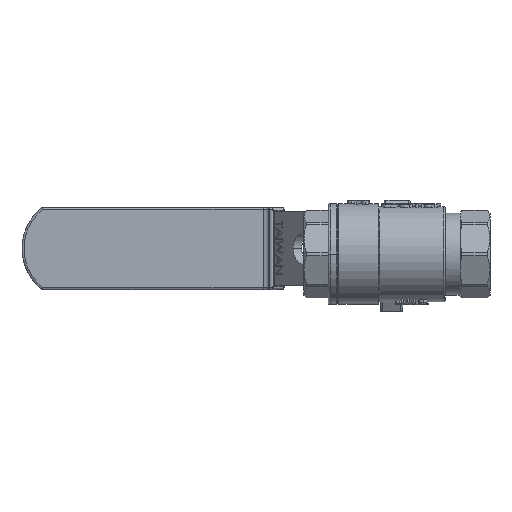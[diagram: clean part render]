
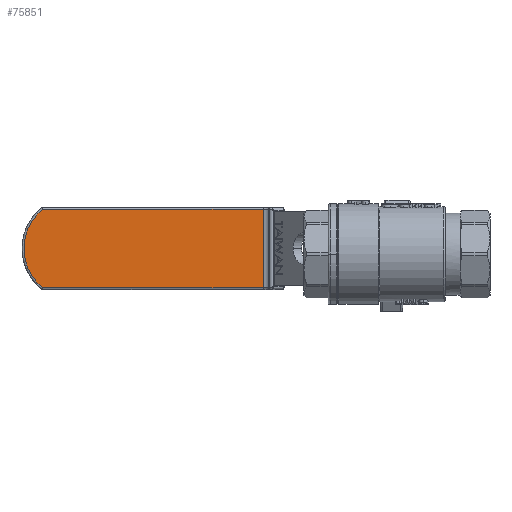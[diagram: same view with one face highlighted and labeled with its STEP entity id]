
A CAD part, front view. The second image highlights one B-rep face of the part: STEP entity #75851.
In plain terms, the highlighted planar face has unit normal (0, -1, 0).
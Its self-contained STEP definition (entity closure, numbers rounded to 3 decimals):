
#4627 = VERTEX_POINT ( 'NONE', #117101 ) ;
#5221 = AXIS2_PLACEMENT_3D ( 'NONE', #112154, #52842, #71884 ) ;
#7365 = DIRECTION ( 'NONE',  ( -1., 0., 0. ) ) ;
#7374 = CARTESIAN_POINT ( 'NONE',  ( -4.515, -4., 10.5 ) ) ;
#7629 = DIRECTION ( 'NONE',  ( 1., 0., 0. ) ) ;
#13216 = EDGE_CURVE ( 'NONE', #22047, #4627, #111611, .T. ) ;
#17090 = DIRECTION ( 'NONE',  ( 0., 1., 0. ) ) ;
#21269 = EDGE_LOOP ( 'NONE', ( #113720, #109371, #82656, #93278 ) ) ;
#22047 = VERTEX_POINT ( 'NONE', #7374 ) ;
#28058 = VERTEX_POINT ( 'NONE', #103497 ) ;
#29478 = LINE ( 'NONE', #83528, #52180 ) ;
#29823 = VECTOR ( 'NONE', #7365, 1000. ) ;
#32232 = FACE_OUTER_BOUND ( 'NONE', #21269, .T. ) ;
#43552 = CIRCLE ( 'NONE', #5221, 13.5 ) ;
#50886 = EDGE_CURVE ( 'NONE', #69385, #28058, #58182, .T. ) ;
#52180 = VECTOR ( 'NONE', #72955, 1000. ) ;
#52842 = DIRECTION ( 'NONE',  ( 0., -1., 0. ) ) ;
#53296 = CARTESIAN_POINT ( 'NONE',  ( -63.662, -4., -10.5 ) ) ;
#53929 = DIRECTION ( 'NONE',  ( -1., 0., 0. ) ) ;
#55162 = PLANE ( 'NONE',  #110521 ) ;
#58182 = LINE ( 'NONE', #53296, #106677 ) ;
#58626 = EDGE_CURVE ( 'NONE', #28058, #22047, #43552, .T. ) ;
#69385 = VERTEX_POINT ( 'NONE', #75158 ) ;
#71884 = DIRECTION ( 'NONE',  ( -1., 0., 0. ) ) ;
#72955 = DIRECTION ( 'NONE',  ( 0., 0., -1. ) ) ;
#75158 = CARTESIAN_POINT ( 'NONE',  ( -63.662, -4., -10.5 ) ) ;
#75851 = ADVANCED_FACE ( 'NONE', ( #32232 ), #55162, .F. ) ;
#82656 = ORIENTED_EDGE ( 'NONE', *, *, #58626, .T. ) ;
#83506 = CARTESIAN_POINT ( 'NONE',  ( -63.662, -4., 10.5 ) ) ;
#83528 = CARTESIAN_POINT ( 'NONE',  ( -63.662, -4., 10. ) ) ;
#93278 = ORIENTED_EDGE ( 'NONE', *, *, #13216, .T. ) ;
#102832 = EDGE_CURVE ( 'NONE', #4627, #69385, #29478, .T. ) ;
#103497 = CARTESIAN_POINT ( 'NONE',  ( -4.515, -4., -10.5 ) ) ;
#103862 = CARTESIAN_POINT ( 'NONE',  ( -63.662, -4., 10. ) ) ;
#106677 = VECTOR ( 'NONE', #7629, 1000. ) ;
#109371 = ORIENTED_EDGE ( 'NONE', *, *, #50886, .T. ) ;
#110521 = AXIS2_PLACEMENT_3D ( 'NONE', #103862, #17090, #53929 ) ;
#111611 = LINE ( 'NONE', #83506, #29823 ) ;
#112154 = CARTESIAN_POINT ( 'NONE',  ( -13., -4., 0. ) ) ;
#113720 = ORIENTED_EDGE ( 'NONE', *, *, #102832, .T. ) ;
#117101 = CARTESIAN_POINT ( 'NONE',  ( -63.662, -4., 10.5 ) ) ;
